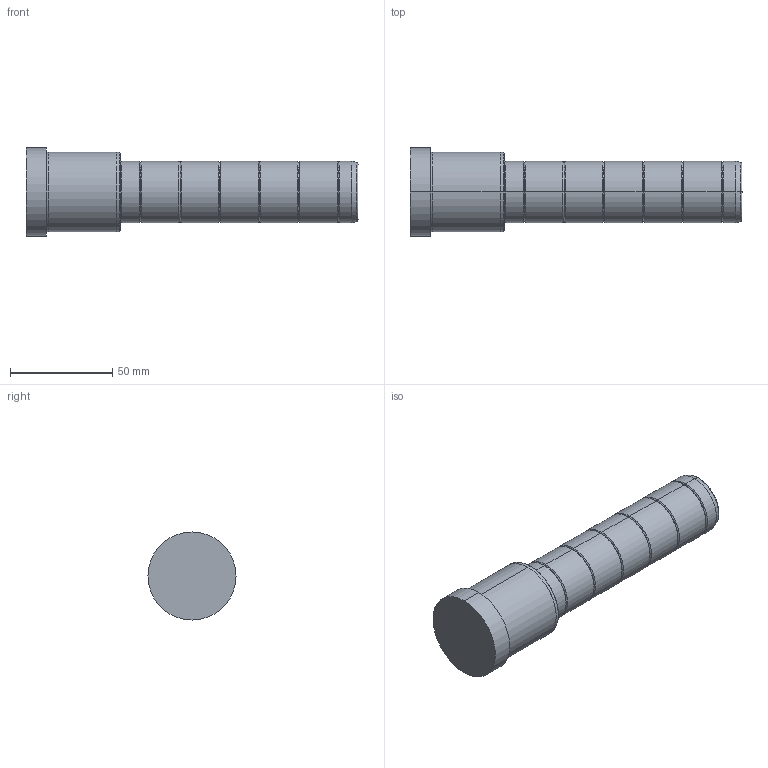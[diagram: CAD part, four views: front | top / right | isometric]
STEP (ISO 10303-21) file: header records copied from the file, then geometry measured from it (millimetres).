
FILE_DESCRIPTION( ( 'STEP AP203' ), '1' );
FILE_NAME( 'C:/Projects/D02 - 30x46x116.step', '2002-12-31T22:50:39', ( ' ' ), ( ' ' ), 'XStep 1.0', ' ', ' ' );
FILE_SCHEMA( ( 'CONFIG_CONTROL_DESIGN' ) );
Length unit declared in the file: metre
Products named in the file (1): 1
Bounding box: 162 x 43 x 43 mm (x, y, z)
Volume: 139212.7 mm3; surface area: 19758.9 mm2
Topology: 1 solids, 1 shells, 60 faces, 118 edges, 64 vertices
Faces by surface type: bspline 34, revolution 26
Entity records: 1919 total; most frequent: CARTESIAN_POINT 817, ORIENTED_EDGE 236, DIRECTION 182, EDGE_CURVE 118, AXIS2_PLACEMENT_3D 65, EDGE_LOOP 64, VERTEX_POINT 64, CIRCLE 64
